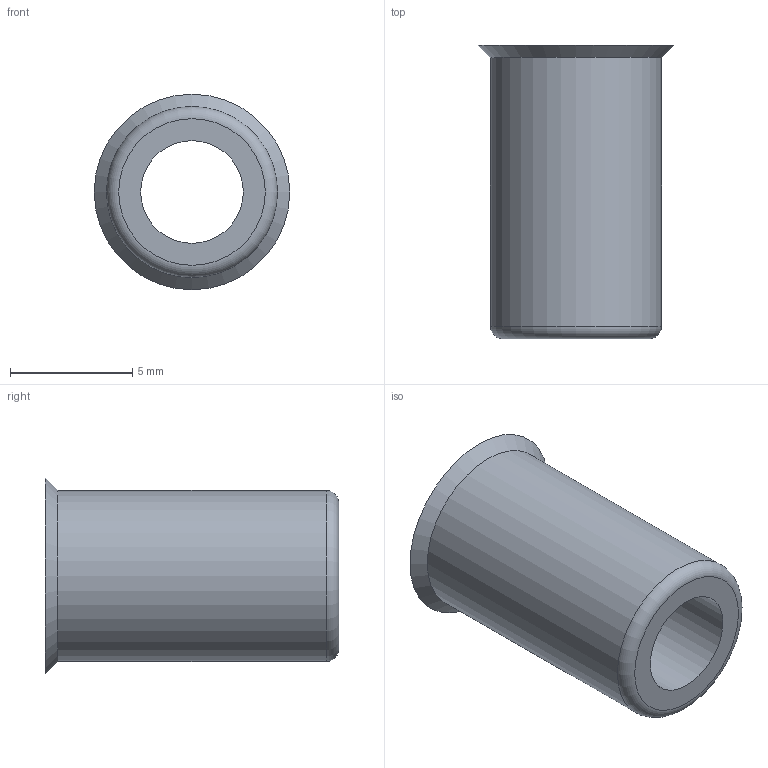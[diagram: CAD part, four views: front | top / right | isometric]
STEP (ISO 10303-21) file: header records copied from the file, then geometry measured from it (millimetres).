
FILE_DESCRIPTION (( 'STEP AP214' ), '1' );
FILE_NAME ('F10165.step', '2024-12-03T16:14:08', ( '' ), ( '' ), 'SwSTEP 2.0', 'SolidWorks 2023', '' );
FILE_SCHEMA (( 'AUTOMOTIVE_DESIGN' ));
Length unit declared in the file: millimetre
Products named in the file (1): F10165
Bounding box: 8 x 12 x 8 mm (x, y, z)
Volume: 239.6 mm3; surface area: 506.7 mm2
Topology: 1 solids, 1 shells, 8 faces, 15 edges, 10 vertices
Faces by surface type: plane 3, cylinder 3, cone 1, torus 1
Full cylindrical faces by diameter (mm): 4.2 x1, 6 x1, 7 x1
Entity records: 191 total; most frequent: DIRECTION 34, CARTESIAN_POINT 25, AXIS2_PLACEMENT_3D 17, ORIENTED_EDGE 16, EDGE_LOOP 16, FACE_OUTER_BOUND 12, EDGE_CURVE 8, VERTEX_POINT 8
